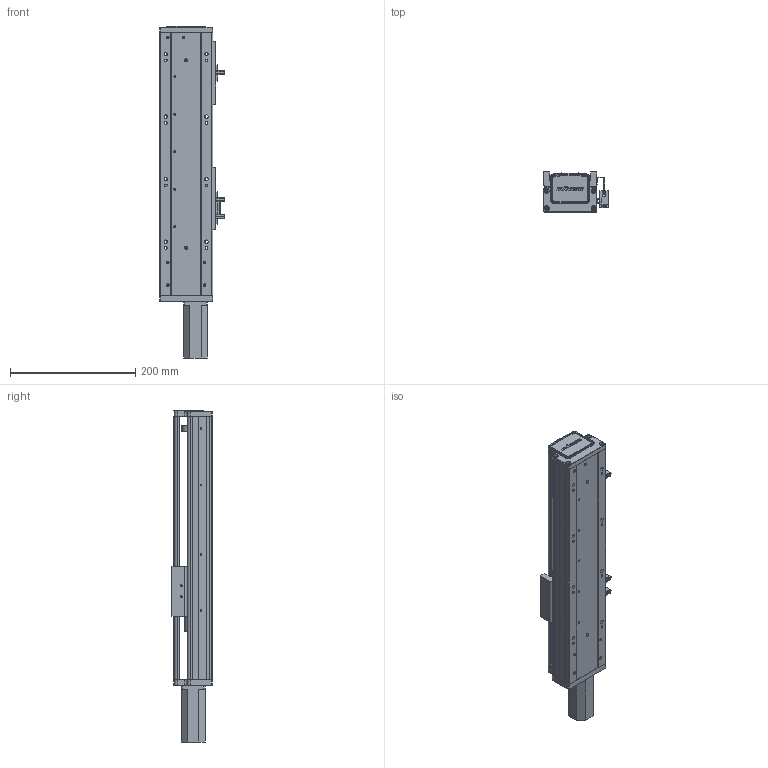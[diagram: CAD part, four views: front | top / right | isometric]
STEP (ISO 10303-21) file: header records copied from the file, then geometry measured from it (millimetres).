
FILE_DESCRIPTION (( 'STEP AP203' ), '1' );
FILE_NAME ('RY80-L1620-300-MK(100W).SLDASM_200.step', '2021-02-20T02:19:28', ( '' ), ( '' ), 'SwSTEP 2.0', 'SolidWorks 2012', '' );
FILE_SCHEMA (( 'CONFIG_CONTROL_DESIGN' ));
Length unit declared in the file: millimetre
Products named in the file (12): 侂狟100W; 滅袉蝶18-24; RY80-L1620-300-MK(100W).SLDASM_200; 672嫖萇羲壽假蚾釱; RY80俋离覜茼え; 覜茼ん672; RY80前盖板(100W电机)M3; RY80綴裔啣; RY80-300-MK倰第奻裔啣_200; 滅袉蝶18-10; RY80-300-MK倰第菁釱_200; RY80臏賑輸
Assembly tree (14 placements, depth 2):
  RY80-L1620-300-MK(100W).SLDASM_200
    RY80-300-MK倰第菁釱_200
    RY80臏賑輸
    RY80-300-MK倰第奻裔啣_200
    RY80前盖板(100W电机)M3
    RY80綴裔啣
    滅袉蝶18-10
    672嫖萇羲壽假蚾釱  x2
    覜茼ん672  x3
    RY80俋离覜茼え
    滅袉蝶18-24
    侂狟100W
Bounding box: 103.7 x 65 x 531 mm (x, y, z)
Volume: 871245.5 mm3; surface area: 346071.1 mm2
Topology: 14 solids, 14 shells, 1471 faces, 4095 edges, 2673 vertices
Faces by surface type: plane 884, cylinder 483, cone 70, bspline 34
Entity records: 44804 total; most frequent: CARTESIAN_POINT 11255, ORIENTED_EDGE 6958, DIRECTION 6300, EDGE_CURVE 3479, VERTEX_POINT 2289, VECTOR 2256, LINE 2256, AXIS2_PLACEMENT_3D 2022
